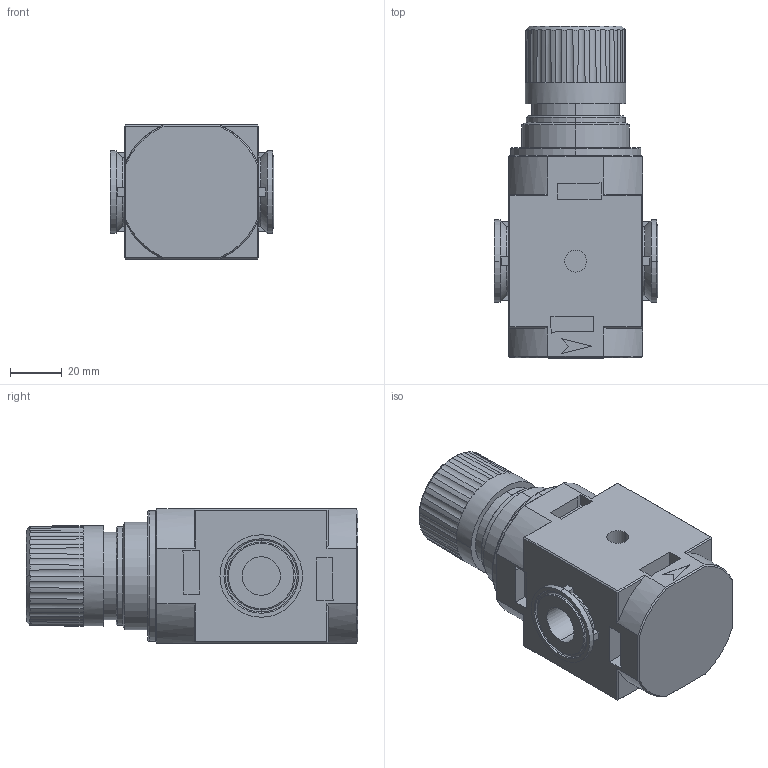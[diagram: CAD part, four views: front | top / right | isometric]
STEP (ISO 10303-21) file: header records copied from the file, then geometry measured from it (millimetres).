
FILE_DESCRIPTION (( 'STEP AP214' ), '1' );
FILE_NAME ('0501100000.STEP', '2009-03-31T09:41:39', ( ' ' ), ( '' ), 'SwSTEP 2.0', 'SolidWorks 2009', '' );
FILE_SCHEMA (( 'AUTOMOTIVE_DESIGN' ));
Length unit declared in the file: millimetre
Products named in the file (1): 0501100000
Bounding box: 63.3 x 128.7 x 52.1 mm (x, y, z)
Volume: 256741.6 mm3; surface area: 34970.8 mm2
Topology: 1 solids, 1 shells, 462 faces, 1136 edges, 720 vertices
Faces by surface type: plane 257, cylinder 128, cone 49, bspline 20, torus 8
Entity records: 17485 total; most frequent: CARTESIAN_POINT 3734, ORIENTED_EDGE 2272, DIRECTION 2185, EDGE_CURVE 1136, AXIS2_PLACEMENT_3D 789, VERTEX_POINT 720, VECTOR 607, LINE 607
